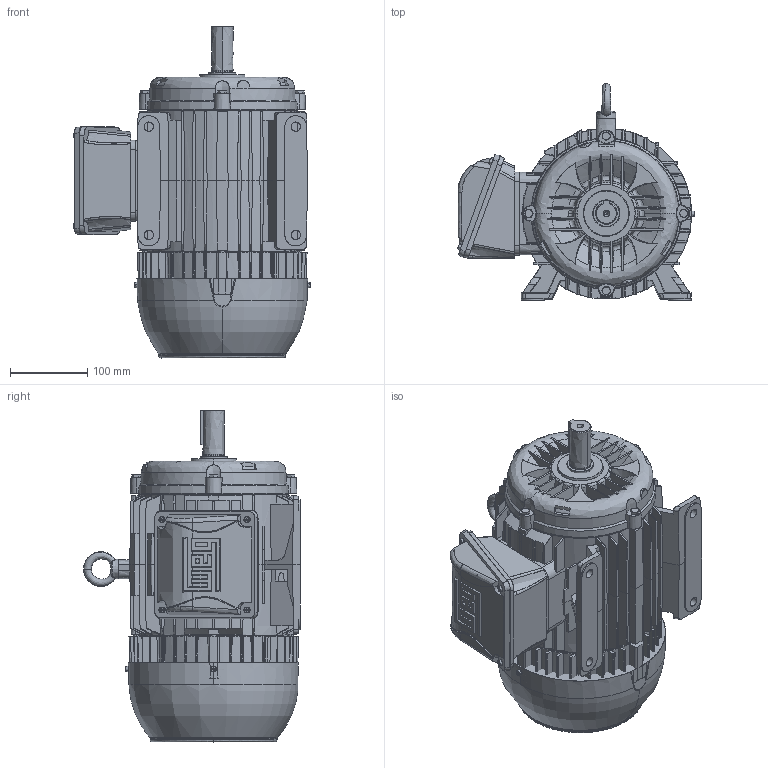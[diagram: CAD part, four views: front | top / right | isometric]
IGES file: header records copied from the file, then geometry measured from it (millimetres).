
Start section: SolidWorks IGES file using analytic representation for surfaces
Global section: file name: Q:\GROUPS\BR_SC_JGS_WMO_ENG_PRODUTO\ADMINISTRACAO_PRODUTO\Implantação de linha\Ian\Diversos\Scheila Sabrina Tomazeli\1\W22_GENERAL_PURPOSE\12_FRAME_L112M\STANDARD\IGS\L112M_LEFT.IGS; native system: SolidWorks 2018; preprocessor: SolidWorks 2018; author: ianr; date: 200211.105430; units: millimetre
Bounding box: 305.97 x 280 x 429.1 mm (x, y, z)
Surface area: 886588.2 mm2 (no closed solid volume)
Topology: 0 solids, 0 shells, 2792 faces, 25475 edges, 25452 vertices
Faces by surface type: bspline 2163, revolution 629
